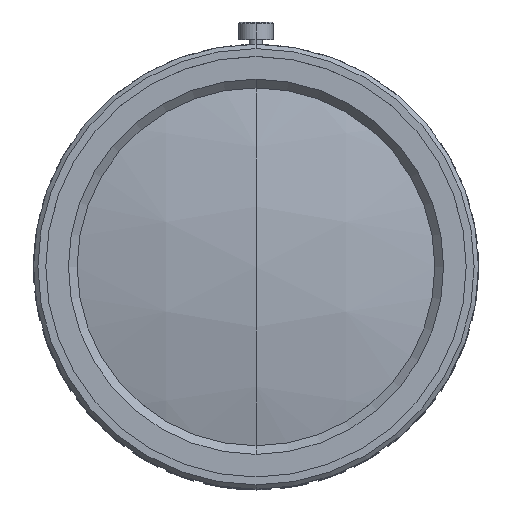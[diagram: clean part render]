
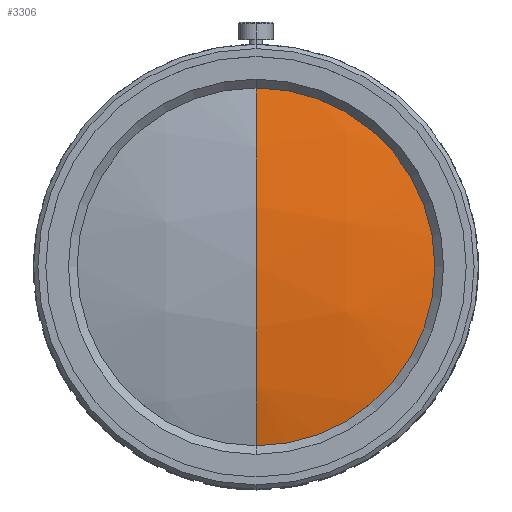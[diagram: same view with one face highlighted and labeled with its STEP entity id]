
A CAD part, top view. The second image highlights one B-rep face of the part: STEP entity #3306.
In plain terms, the highlighted spherical face has radius 83.566 mm.
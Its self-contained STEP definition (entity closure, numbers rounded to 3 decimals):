
#3306 = ADVANCED_FACE('',(#3307),#3322,.T.);
#3307 = FACE_BOUND('',#3308,.T.);
#3308 = EDGE_LOOP('',(#3309,#3345,#3369));
#3309 = ORIENTED_EDGE('',*,*,#3310,.F.);
#3310 = EDGE_CURVE('',#3311,#3313,#3315,.T.);
#3311 = VERTEX_POINT('',#3312);
#3312 = CARTESIAN_POINT('',(0.,0.,72.958));
#3313 = VERTEX_POINT('',#3314);
#3314 = CARTESIAN_POINT('',(0.,20.5,70.405));
#3315 = SURFACE_CURVE('',#3316,(#3321,#3333),.PCURVE_S1.);
#3316 = CIRCLE('',#3317,83.566);
#3317 = AXIS2_PLACEMENT_3D('',#3318,#3319,#3320);
#3318 = CARTESIAN_POINT('',(0.,0.,-10.608));
#3319 = DIRECTION('',(-1.,0.,0.));
#3320 = DIRECTION('',(0.,0.,1.));
#3321 = PCURVE('',#3322,#3327);
#3322 = SPHERICAL_SURFACE('',#3323,83.566);
#3323 = AXIS2_PLACEMENT_3D('',#3324,#3325,#3326);
#3324 = CARTESIAN_POINT('',(0.,0.,-10.608));
#3325 = DIRECTION('',(1.,0.,-0.));
#3326 = DIRECTION('',(0.,1.,0.));
#3327 = DEFINITIONAL_REPRESENTATION('',(#3328),#3332);
#3328 = LINE('',#3329,#3330);
#3329 = CARTESIAN_POINT('',(1.571,0.));
#3330 = VECTOR('',#3331,1.);
#3331 = DIRECTION('',(-1.,0.));
#3332 = ( GEOMETRIC_REPRESENTATION_CONTEXT(2) 
PARAMETRIC_REPRESENTATION_CONTEXT() REPRESENTATION_CONTEXT('',''
  ) );
#3333 = PCURVE('',#3334,#3339);
#3334 = SPHERICAL_SURFACE('',#3335,83.566);
#3335 = AXIS2_PLACEMENT_3D('',#3336,#3337,#3338);
#3336 = CARTESIAN_POINT('',(0.,0.,-10.608));
#3337 = DIRECTION('',(1.,0.,-0.));
#3338 = DIRECTION('',(0.,1.,0.));
#3339 = DEFINITIONAL_REPRESENTATION('',(#3340),#3344);
#3340 = LINE('',#3341,#3342);
#3341 = CARTESIAN_POINT('',(1.571,0.));
#3342 = VECTOR('',#3343,1.);
#3343 = DIRECTION('',(-1.,0.));
#3344 = ( GEOMETRIC_REPRESENTATION_CONTEXT(2) 
PARAMETRIC_REPRESENTATION_CONTEXT() REPRESENTATION_CONTEXT('',''
  ) );
#3345 = ORIENTED_EDGE('',*,*,#3346,.T.);
#3346 = EDGE_CURVE('',#3311,#3347,#3349,.T.);
#3347 = VERTEX_POINT('',#3348);
#3348 = CARTESIAN_POINT('',(0.,-20.5,70.405));
#3349 = SURFACE_CURVE('',#3350,(#3355,#3362),.PCURVE_S1.);
#3350 = CIRCLE('',#3351,83.566);
#3351 = AXIS2_PLACEMENT_3D('',#3352,#3353,#3354);
#3352 = CARTESIAN_POINT('',(0.,0.,-10.608));
#3353 = DIRECTION('',(1.,0.,0.));
#3354 = DIRECTION('',(0.,1.,0.));
#3355 = PCURVE('',#3322,#3356);
#3356 = DEFINITIONAL_REPRESENTATION('',(#3357),#3361);
#3357 = LINE('',#3358,#3359);
#3358 = CARTESIAN_POINT('',(0.,0.));
#3359 = VECTOR('',#3360,1.);
#3360 = DIRECTION('',(1.,0.));
#3361 = ( GEOMETRIC_REPRESENTATION_CONTEXT(2) 
PARAMETRIC_REPRESENTATION_CONTEXT() REPRESENTATION_CONTEXT('',''
  ) );
#3362 = PCURVE('',#3334,#3363);
#3363 = DEFINITIONAL_REPRESENTATION('',(#3364),#3368);
#3364 = LINE('',#3365,#3366);
#3365 = CARTESIAN_POINT('',(0.,0.));
#3366 = VECTOR('',#3367,1.);
#3367 = DIRECTION('',(1.,0.));
#3368 = ( GEOMETRIC_REPRESENTATION_CONTEXT(2) 
PARAMETRIC_REPRESENTATION_CONTEXT() REPRESENTATION_CONTEXT('',''
  ) );
#3369 = ORIENTED_EDGE('',*,*,#3370,.F.);
#3370 = EDGE_CURVE('',#3313,#3347,#3371,.T.);
#3371 = SURFACE_CURVE('',#3372,(#3377,#3406),.PCURVE_S1.);
#3372 = CIRCLE('',#3373,20.5);
#3373 = AXIS2_PLACEMENT_3D('',#3374,#3375,#3376);
#3374 = CARTESIAN_POINT('',(0.,0.,70.405));
#3375 = DIRECTION('',(-0.,0.,-1.));
#3376 = DIRECTION('',(0.,1.,0.));
#3377 = PCURVE('',#3322,#3378);
#3378 = DEFINITIONAL_REPRESENTATION('',(#3379),#3405);
#3379 = B_SPLINE_CURVE_WITH_KNOTS('',3,(#3380,#3381,#3382,#3383,#3384,
    #3385,#3386,#3387,#3388,#3389,#3390,#3391,#3392,#3393,#3394,#3395,
    #3396,#3397,#3398,#3399,#3400,#3401,#3402,#3403,#3404),
  .UNSPECIFIED.,.F.,.F.,(4,1,1,1,1,1,1,1,1,1,1,1,1,1,1,1,1,1,1,1,1,1,4),
  (0.,0.143,0.286,0.428,0.571,
    0.714,0.857,1.,1.142,
    1.285,1.428,1.571,1.714,
    1.856,1.999,2.142,2.285,
    2.428,2.57,2.713,2.856,
    2.999,3.142),.QUASI_UNIFORM_KNOTS.);
#3380 = CARTESIAN_POINT('',(1.323,0.));
#3381 = CARTESIAN_POINT('',(1.323,0.012));
#3382 = CARTESIAN_POINT('',(1.325,0.035));
#3383 = CARTESIAN_POINT('',(1.332,0.069));
#3384 = CARTESIAN_POINT('',(1.344,0.102));
#3385 = CARTESIAN_POINT('',(1.36,0.133));
#3386 = CARTESIAN_POINT('',(1.381,0.162));
#3387 = CARTESIAN_POINT('',(1.406,0.187));
#3388 = CARTESIAN_POINT('',(1.434,0.209));
#3389 = CARTESIAN_POINT('',(1.466,0.226));
#3390 = CARTESIAN_POINT('',(1.499,0.238));
#3391 = CARTESIAN_POINT('',(1.535,0.246));
#3392 = CARTESIAN_POINT('',(1.571,0.249));
#3393 = CARTESIAN_POINT('',(1.607,0.246));
#3394 = CARTESIAN_POINT('',(1.642,0.238));
#3395 = CARTESIAN_POINT('',(1.676,0.226));
#3396 = CARTESIAN_POINT('',(1.707,0.209));
#3397 = CARTESIAN_POINT('',(1.736,0.187));
#3398 = CARTESIAN_POINT('',(1.76,0.162));
#3399 = CARTESIAN_POINT('',(1.781,0.133));
#3400 = CARTESIAN_POINT('',(1.798,0.102));
#3401 = CARTESIAN_POINT('',(1.81,0.069));
#3402 = CARTESIAN_POINT('',(1.817,0.035));
#3403 = CARTESIAN_POINT('',(1.819,0.012));
#3404 = CARTESIAN_POINT('',(1.819,0.));
#3405 = ( GEOMETRIC_REPRESENTATION_CONTEXT(2) 
PARAMETRIC_REPRESENTATION_CONTEXT() REPRESENTATION_CONTEXT('',''
  ) );
#3406 = PCURVE('',#3407,#3412);
#3407 = CYLINDRICAL_SURFACE('',#3408,20.5);
#3408 = AXIS2_PLACEMENT_3D('',#3409,#3410,#3411);
#3409 = CARTESIAN_POINT('',(0.,0.,0.7));
#3410 = DIRECTION('',(-0.,0.,-1.));
#3411 = DIRECTION('',(0.,1.,0.));
#3412 = DEFINITIONAL_REPRESENTATION('',(#3413),#3417);
#3413 = LINE('',#3414,#3415);
#3414 = CARTESIAN_POINT('',(0.,-69.705));
#3415 = VECTOR('',#3416,1.);
#3416 = DIRECTION('',(1.,0.));
#3417 = ( GEOMETRIC_REPRESENTATION_CONTEXT(2) 
PARAMETRIC_REPRESENTATION_CONTEXT() REPRESENTATION_CONTEXT('',''
  ) );
